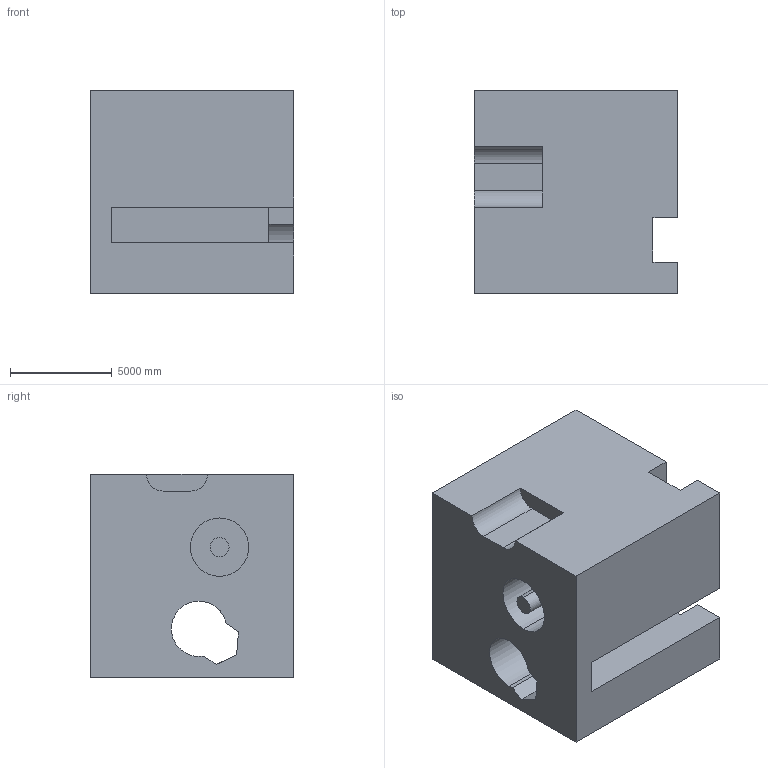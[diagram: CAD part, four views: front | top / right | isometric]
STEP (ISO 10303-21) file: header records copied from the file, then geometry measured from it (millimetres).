
FILE_DESCRIPTION (( 'STEP AP203' ), '1' );
FILE_NAME ('1571.STEP', '2022-08-18T15:52:22', ( 'user' ), ( '' ), 'SwSTEP 2.0', 'SolidWorks 2021', '' );
FILE_SCHEMA (( 'CONFIG_CONTROL_DESIGN' ));
Length unit declared in the file: centimetre
Products named in the file (1): 1571
Bounding box: 10000 x 10000 x 10000 mm (x, y, z)
Volume: 816128061486.6 mm3; surface area: 820381504 mm2
Topology: 1 solids, 1 shells, 34 faces, 93 edges, 62 vertices
Faces by surface type: plane 25, cylinder 9
Entity records: 1157 total; most frequent: CARTESIAN_POINT 190, ORIENTED_EDGE 186, DIRECTION 182, EDGE_CURVE 93, VECTOR 74, LINE 74, VERTEX_POINT 62, AXIS2_PLACEMENT_3D 54
